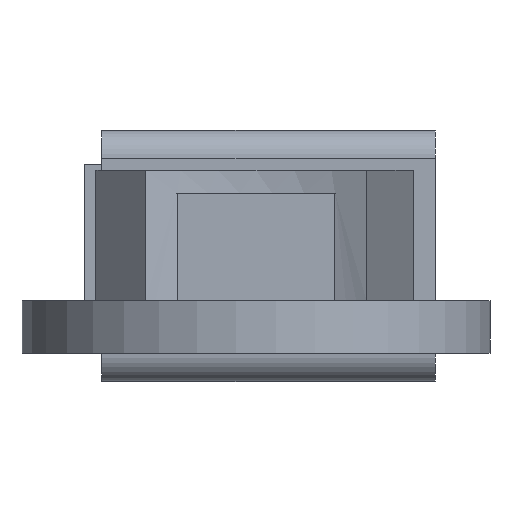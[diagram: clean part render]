
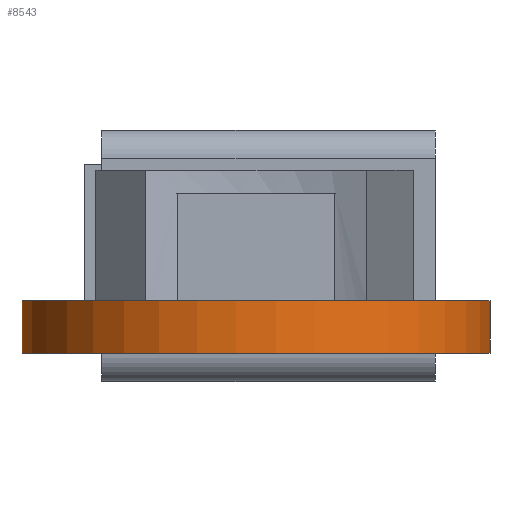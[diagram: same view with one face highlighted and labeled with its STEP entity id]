
A CAD part, left-side view. The second image highlights one B-rep face of the part: STEP entity #8543.
In plain terms, the highlighted cylindrical face has radius 20.5 mm (diameter 41 mm), a partial arc.
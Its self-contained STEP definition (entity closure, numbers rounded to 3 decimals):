
#32 = PLANE('',#33);
#33 = AXIS2_PLACEMENT_3D('',#34,#35,#36);
#34 = CARTESIAN_POINT('',(0.,0.,0.));
#35 = DIRECTION('',(0.,0.,1.));
#36 = DIRECTION('',(1.,0.,-0.));
#137 = VERTEX_POINT('',#138);
#138 = CARTESIAN_POINT('',(18.031,9.754,0.));
#152 = PLANE('',#153);
#153 = AXIS2_PLACEMENT_3D('',#154,#155,#156);
#154 = CARTESIAN_POINT('',(28.79,11.099,
    4.765));
#155 = DIRECTION('',(-0.124,0.992,0.));
#156 = DIRECTION('',(0.992,0.124,0.));
#164 = EDGE_CURVE('',#137,#165,#167,.T.);
#165 = VERTEX_POINT('',#166);
#166 = CARTESIAN_POINT('',(18.031,-9.754,0.));
#167 = SURFACE_CURVE('',#168,(#173,#180),.PCURVE_S1.);
#168 = CIRCLE('',#169,20.5);
#169 = AXIS2_PLACEMENT_3D('',#170,#171,#172);
#170 = CARTESIAN_POINT('',(0.,0.,0.));
#171 = DIRECTION('',(0.,0.,1.));
#172 = DIRECTION('',(1.,0.,-0.));
#173 = PCURVE('',#32,#174);
#174 = DEFINITIONAL_REPRESENTATION('',(#175),#179);
#175 = CIRCLE('',#176,20.5);
#176 = AXIS2_PLACEMENT_2D('',#177,#178);
#177 = CARTESIAN_POINT('',(0.,0.));
#178 = DIRECTION('',(1.,0.));
#179 = ( GEOMETRIC_REPRESENTATION_CONTEXT(2) 
PARAMETRIC_REPRESENTATION_CONTEXT() REPRESENTATION_CONTEXT('2D SPACE',''
  ) );
#180 = PCURVE('',#181,#186);
#181 = CYLINDRICAL_SURFACE('',#182,20.5);
#182 = AXIS2_PLACEMENT_3D('',#183,#184,#185);
#183 = CARTESIAN_POINT('',(0.,0.,0.));
#184 = DIRECTION('',(0.,0.,1.));
#185 = DIRECTION('',(1.,0.,-0.));
#186 = DEFINITIONAL_REPRESENTATION('',(#187),#191);
#187 = LINE('',#188,#189);
#188 = CARTESIAN_POINT('',(0.,0.));
#189 = VECTOR('',#190,1.);
#190 = DIRECTION('',(1.,0.));
#191 = ( GEOMETRIC_REPRESENTATION_CONTEXT(2) 
PARAMETRIC_REPRESENTATION_CONTEXT() REPRESENTATION_CONTEXT('2D SPACE',''
  ) );
#209 = PLANE('',#210);
#210 = AXIS2_PLACEMENT_3D('',#211,#212,#213);
#211 = CARTESIAN_POINT('',(28.79,-11.099,
    4.765));
#212 = DIRECTION('',(-0.124,-0.992,-0.));
#213 = DIRECTION('',(-0.992,0.124,0.));
#2188 = PLANE('',#2189);
#2189 = AXIS2_PLACEMENT_3D('',#2190,#2191,#2192);
#2190 = CARTESIAN_POINT('',(0.,0.,4.6));
#2191 = DIRECTION('',(0.,0.,1.));
#2192 = DIRECTION('',(1.,0.,-0.));
#2223 = VERTEX_POINT('',#2224);
#2224 = CARTESIAN_POINT('',(18.031,9.754,4.6));
#2246 = EDGE_CURVE('',#2223,#2247,#2249,.T.);
#2247 = VERTEX_POINT('',#2248);
#2248 = CARTESIAN_POINT('',(18.031,-9.754,4.6));
#2249 = SURFACE_CURVE('',#2250,(#2255,#2262),.PCURVE_S1.);
#2250 = CIRCLE('',#2251,20.5);
#2251 = AXIS2_PLACEMENT_3D('',#2252,#2253,#2254);
#2252 = CARTESIAN_POINT('',(0.,0.,4.6));
#2253 = DIRECTION('',(0.,0.,1.));
#2254 = DIRECTION('',(1.,0.,-0.));
#2255 = PCURVE('',#2188,#2256);
#2256 = DEFINITIONAL_REPRESENTATION('',(#2257),#2261);
#2257 = CIRCLE('',#2258,20.5);
#2258 = AXIS2_PLACEMENT_2D('',#2259,#2260);
#2259 = CARTESIAN_POINT('',(0.,0.));
#2260 = DIRECTION('',(1.,0.));
#2261 = ( GEOMETRIC_REPRESENTATION_CONTEXT(2) 
PARAMETRIC_REPRESENTATION_CONTEXT() REPRESENTATION_CONTEXT('2D SPACE',''
  ) );
#2262 = PCURVE('',#181,#2263);
#2263 = DEFINITIONAL_REPRESENTATION('',(#2264),#2268);
#2264 = LINE('',#2265,#2266);
#2265 = CARTESIAN_POINT('',(0.,4.6));
#2266 = VECTOR('',#2267,1.);
#2267 = DIRECTION('',(1.,0.));
#2268 = ( GEOMETRIC_REPRESENTATION_CONTEXT(2) 
PARAMETRIC_REPRESENTATION_CONTEXT() REPRESENTATION_CONTEXT('2D SPACE',''
  ) );
#8521 = EDGE_CURVE('',#137,#2223,#8522,.T.);
#8522 = SURFACE_CURVE('',#8523,(#8527,#8533),.PCURVE_S1.);
#8523 = LINE('',#8524,#8525);
#8524 = CARTESIAN_POINT('',(18.031,9.754,0.));
#8525 = VECTOR('',#8526,1.);
#8526 = DIRECTION('',(0.,0.,1.));
#8527 = PCURVE('',#152,#8528);
#8528 = DEFINITIONAL_REPRESENTATION('',(#8529),#8532);
#8529 = B_SPLINE_CURVE_WITH_KNOTS('',1,(#8530,#8531),.UNSPECIFIED.,.F.,
  .F.,(2,2),(0.,4.6),.PIECEWISE_BEZIER_KNOTS.);
#8530 = CARTESIAN_POINT('',(-10.843,4.765));
#8531 = CARTESIAN_POINT('',(-10.843,0.165));
#8532 = ( GEOMETRIC_REPRESENTATION_CONTEXT(2) 
PARAMETRIC_REPRESENTATION_CONTEXT() REPRESENTATION_CONTEXT('2D SPACE',''
  ) );
#8533 = PCURVE('',#181,#8534);
#8534 = DEFINITIONAL_REPRESENTATION('',(#8535),#8538);
#8535 = B_SPLINE_CURVE_WITH_KNOTS('',1,(#8536,#8537),.UNSPECIFIED.,.F.,
  .F.,(2,2),(0.,4.6),.PIECEWISE_BEZIER_KNOTS.);
#8536 = CARTESIAN_POINT('',(0.496,0.));
#8537 = CARTESIAN_POINT('',(0.496,4.6));
#8538 = ( GEOMETRIC_REPRESENTATION_CONTEXT(2) 
PARAMETRIC_REPRESENTATION_CONTEXT() REPRESENTATION_CONTEXT('2D SPACE',''
  ) );
#8543 = ADVANCED_FACE('',(#8544),#181,.T.);
#8544 = FACE_BOUND('',#8545,.T.);
#8545 = EDGE_LOOP('',(#8546,#8547,#8548,#8549));
#8546 = ORIENTED_EDGE('',*,*,#2246,.F.);
#8547 = ORIENTED_EDGE('',*,*,#8521,.F.);
#8548 = ORIENTED_EDGE('',*,*,#164,.T.);
#8549 = ORIENTED_EDGE('',*,*,#8550,.T.);
#8550 = EDGE_CURVE('',#165,#2247,#8551,.T.);
#8551 = SURFACE_CURVE('',#8552,(#8556,#8562),.PCURVE_S1.);
#8552 = LINE('',#8553,#8554);
#8553 = CARTESIAN_POINT('',(18.031,-9.754,0.));
#8554 = VECTOR('',#8555,1.);
#8555 = DIRECTION('',(0.,0.,1.));
#8556 = PCURVE('',#181,#8557);
#8557 = DEFINITIONAL_REPRESENTATION('',(#8558),#8561);
#8558 = B_SPLINE_CURVE_WITH_KNOTS('',1,(#8559,#8560),.UNSPECIFIED.,.F.,
  .F.,(2,2),(0.,4.6),.PIECEWISE_BEZIER_KNOTS.);
#8559 = CARTESIAN_POINT('',(5.787,0.));
#8560 = CARTESIAN_POINT('',(5.787,4.6));
#8561 = ( GEOMETRIC_REPRESENTATION_CONTEXT(2) 
PARAMETRIC_REPRESENTATION_CONTEXT() REPRESENTATION_CONTEXT('2D SPACE',''
  ) );
#8562 = PCURVE('',#209,#8563);
#8563 = DEFINITIONAL_REPRESENTATION('',(#8564),#8567);
#8564 = B_SPLINE_CURVE_WITH_KNOTS('',1,(#8565,#8566),.UNSPECIFIED.,.F.,
  .F.,(2,2),(0.,4.6),.PIECEWISE_BEZIER_KNOTS.);
#8565 = CARTESIAN_POINT('',(10.843,4.765));
#8566 = CARTESIAN_POINT('',(10.843,0.165));
#8567 = ( GEOMETRIC_REPRESENTATION_CONTEXT(2) 
PARAMETRIC_REPRESENTATION_CONTEXT() REPRESENTATION_CONTEXT('2D SPACE',''
  ) );
